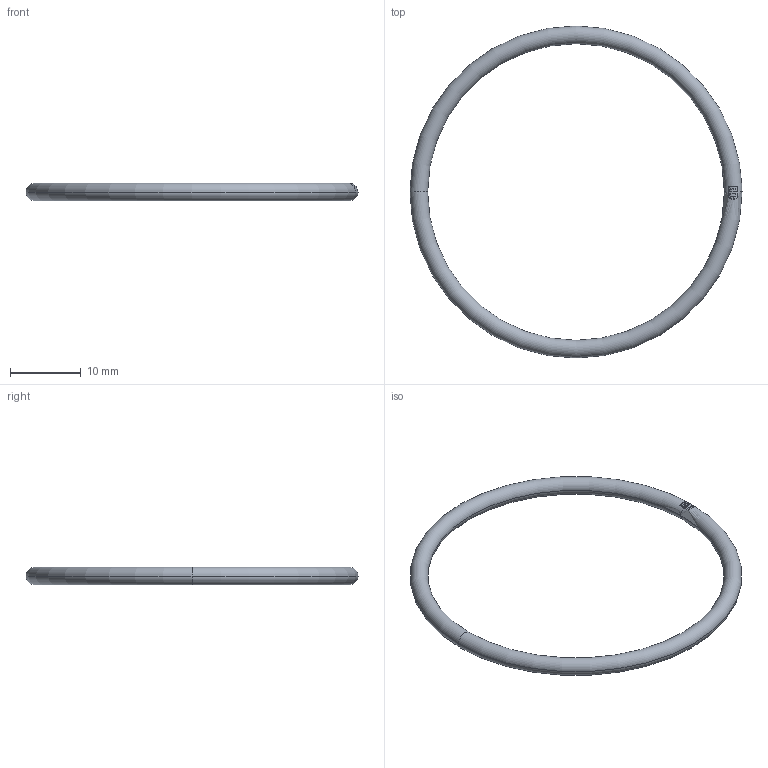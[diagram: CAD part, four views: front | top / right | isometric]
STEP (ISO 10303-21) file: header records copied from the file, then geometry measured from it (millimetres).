
FILE_DESCRIPTION (( 'STEP AP203' ), '1' );
FILE_NAME ('336 G.STEP', '2007-02-26T11:41:15', ( ' ' ), ( '' ), 'SwSTEP 2.0', 'SolidWorks 2005278', '' );
FILE_SCHEMA (( 'CONFIG_CONTROL_DESIGN' ));
Length unit declared in the file: millimetre
Products named in the file (1): 336 G
Bounding box: 47 x 47 x 2.5 mm (x, y, z)
Volume: 686.2 mm3; surface area: 1098.3 mm2
Topology: 1 solids, 1 shells, 41 faces, 113 edges, 74 vertices
Faces by surface type: plane 34, torus 7
Entity records: 1587 total; most frequent: CARTESIAN_POINT 585, ORIENTED_EDGE 226, DIRECTION 140, EDGE_CURVE 113, VERTEX_POINT 74, B_SPLINE_CURVE_WITH_KNOTS 68, AXIS2_PLACEMENT_3D 53, EDGE_LOOP 43
